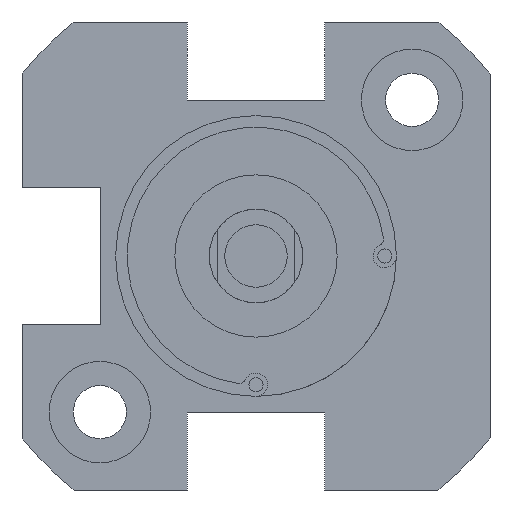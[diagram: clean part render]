
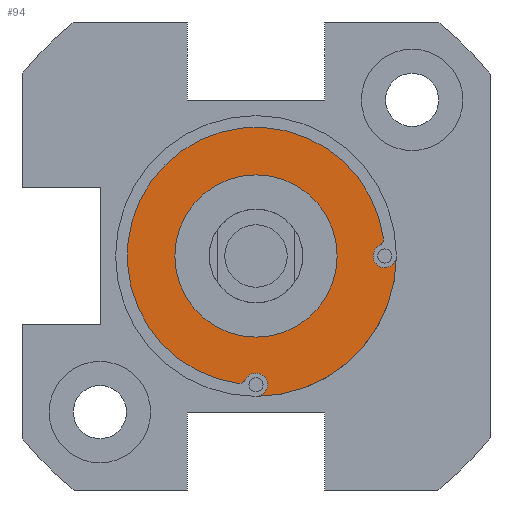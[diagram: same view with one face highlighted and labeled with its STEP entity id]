
A CAD part, front view. The second image highlights one B-rep face of the part: STEP entity #94.
In plain terms, the highlighted planar face has unit normal (0, -1, 0).
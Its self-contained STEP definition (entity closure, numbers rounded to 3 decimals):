
#94 = ADVANCED_FACE ( 'NONE', ( #2192, #703 ), #1147, .T. ) ;
#104 = EDGE_CURVE ( 'NONE', #392, #1234, #2661, .T. ) ;
#167 = ORIENTED_EDGE ( 'NONE', *, *, #2226, .T. ) ;
#177 = DIRECTION ( 'NONE',  ( 0., 0., 1. ) ) ;
#226 = AXIS2_PLACEMENT_3D ( 'NONE', #2895, #2389, #2912 ) ;
#259 = EDGE_CURVE ( 'NONE', #392, #3048, #585, .T. ) ;
#274 = DIRECTION ( 'NONE',  ( 0., 0., 1. ) ) ;
#314 = VERTEX_POINT ( 'NONE', #540 ) ;
#315 = AXIS2_PLACEMENT_3D ( 'NONE', #2873, #892, #177 ) ;
#392 = VERTEX_POINT ( 'NONE', #1765 ) ;
#404 = CIRCLE ( 'NONE', #3050, 0.5 ) ;
#409 = VERTEX_POINT ( 'NONE', #512 ) ;
#411 = DIRECTION ( 'NONE',  ( 0., 0., 1. ) ) ;
#489 = VERTEX_POINT ( 'NONE', #2087 ) ;
#490 = CARTESIAN_POINT ( 'NONE',  ( 0., -36.5, 0. ) ) ;
#512 = CARTESIAN_POINT ( 'NONE',  ( -0.665, -36.5, -7.902 ) ) ;
#525 = AXIS2_PLACEMENT_3D ( 'NONE', #2043, #550, #2304 ) ;
#540 = CARTESIAN_POINT ( 'NONE',  ( -1.179, -36.5, -8.165 ) ) ;
#547 = CARTESIAN_POINT ( 'NONE',  ( 0., -36.5, 0. ) ) ;
#550 = DIRECTION ( 'NONE',  ( 0., 1., 0. ) ) ;
#585 = CIRCLE ( 'NONE', #1107, 9. ) ;
#615 = CARTESIAN_POINT ( 'NONE',  ( 7.902, -36.5, 0.665 ) ) ;
#699 = DIRECTION ( 'NONE',  ( 0., -1., 0. ) ) ;
#703 = FACE_BOUND ( 'NONE', #2941, .T. ) ;
#720 = EDGE_CURVE ( 'NONE', #314, #489, #3157, .T. ) ;
#723 = ORIENTED_EDGE ( 'NONE', *, *, #259, .F. ) ;
#778 = EDGE_CURVE ( 'NONE', #1019, #409, #2063, .T. ) ;
#795 = ORIENTED_EDGE ( 'NONE', *, *, #2995, .T. ) ;
#871 = ORIENTED_EDGE ( 'NONE', *, *, #720, .F. ) ;
#892 = DIRECTION ( 'NONE',  ( 0., 1., 0. ) ) ;
#907 = CARTESIAN_POINT ( 'NONE',  ( 8.25, -36.5, 0. ) ) ;
#926 = AXIS2_PLACEMENT_3D ( 'NONE', #1026, #1535, #2773 ) ;
#931 = AXIS2_PLACEMENT_3D ( 'NONE', #2997, #2759, #1257 ) ;
#951 = CARTESIAN_POINT ( 'NONE',  ( 7.67, -36.5, 1.108 ) ) ;
#953 = CARTESIAN_POINT ( 'NONE',  ( 0., -36.5, -9. ) ) ;
#988 = ORIENTED_EDGE ( 'NONE', *, *, #1918, .T. ) ;
#1019 = VERTEX_POINT ( 'NONE', #2160 ) ;
#1026 = CARTESIAN_POINT ( 'NONE',  ( -1.108, -36.5, -7.67 ) ) ;
#1106 = ORIENTED_EDGE ( 'NONE', *, *, #1768, .T. ) ;
#1107 = AXIS2_PLACEMENT_3D ( 'NONE', #490, #2203, #2458 ) ;
#1133 = AXIS2_PLACEMENT_3D ( 'NONE', #907, #1660, #411 ) ;
#1147 = PLANE ( 'NONE',  #3068 ) ;
#1159 = DIRECTION ( 'NONE',  ( 0., -1., 0. ) ) ;
#1169 = DIRECTION ( 'NONE',  ( 0., 0., 1. ) ) ;
#1197 = DIRECTION ( 'NONE',  ( 0., 0., -1. ) ) ;
#1234 = VERTEX_POINT ( 'NONE', #1980 ) ;
#1257 = DIRECTION ( 'NONE',  ( 0., 0., -1. ) ) ;
#1325 = CIRCLE ( 'NONE', #1133, 0.75 ) ;
#1535 = DIRECTION ( 'NONE',  ( 0., -1., 0. ) ) ;
#1572 = AXIS2_PLACEMENT_3D ( 'NONE', #547, #2288, #274 ) ;
#1660 = DIRECTION ( 'NONE',  ( 0., 1., 0. ) ) ;
#1664 = CARTESIAN_POINT ( 'NONE',  ( 0., -36.5, 0. ) ) ;
#1765 = CARTESIAN_POINT ( 'NONE',  ( 9., -36.5, 0. ) ) ;
#1768 = EDGE_CURVE ( 'NONE', #409, #3048, #2278, .T. ) ;
#1788 = CIRCLE ( 'NONE', #525, 5.2 ) ;
#1849 = DIRECTION ( 'NONE',  ( 0., 0., 1. ) ) ;
#1918 = EDGE_CURVE ( 'NONE', #3214, #489, #404, .T. ) ;
#1980 = CARTESIAN_POINT ( 'NONE',  ( 8.25, -36.5, -0.75 ) ) ;
#2017 = EDGE_CURVE ( 'NONE', #314, #1019, #2398, .T. ) ;
#2043 = CARTESIAN_POINT ( 'NONE',  ( 0., -36.5, 0. ) ) ;
#2063 = CIRCLE ( 'NONE', #926, 0.5 ) ;
#2087 = CARTESIAN_POINT ( 'NONE',  ( 8.165, -36.5, 1.179 ) ) ;
#2103 = DIRECTION ( 'NONE',  ( 0., 1., 0. ) ) ;
#2160 = CARTESIAN_POINT ( 'NONE',  ( -1.108, -36.5, -8.17 ) ) ;
#2192 = FACE_OUTER_BOUND ( 'NONE', #2342, .T. ) ;
#2203 = DIRECTION ( 'NONE',  ( 0., 1., 0. ) ) ;
#2226 = EDGE_CURVE ( 'NONE', #2975, #2930, #1788, .T. ) ;
#2278 = CIRCLE ( 'NONE', #315, 0.75 ) ;
#2288 = DIRECTION ( 'NONE',  ( 0., 1., 0. ) ) ;
#2304 = DIRECTION ( 'NONE',  ( 0., 0., 1. ) ) ;
#2306 = ORIENTED_EDGE ( 'NONE', *, *, #3086, .T. ) ;
#2307 = ORIENTED_EDGE ( 'NONE', *, *, #104, .T. ) ;
#2324 = ORIENTED_EDGE ( 'NONE', *, *, #778, .T. ) ;
#2342 = EDGE_LOOP ( 'NONE', ( #2307, #795, #988, #871, #2985, #2324, #1106, #723 ) ) ;
#2360 = CARTESIAN_POINT ( 'NONE',  ( 0., -36.5, -5.2 ) ) ;
#2389 = DIRECTION ( 'NONE',  ( 0., 1., 0. ) ) ;
#2398 = CIRCLE ( 'NONE', #931, 0.5 ) ;
#2458 = DIRECTION ( 'NONE',  ( 0., 0., 1. ) ) ;
#2567 = CIRCLE ( 'NONE', #3200, 5.2 ) ;
#2661 = CIRCLE ( 'NONE', #226, 0.75 ) ;
#2759 = DIRECTION ( 'NONE',  ( 0., -1., 0. ) ) ;
#2773 = DIRECTION ( 'NONE',  ( 0., 0., -1. ) ) ;
#2812 = CARTESIAN_POINT ( 'NONE',  ( 0., -36.5, 0. ) ) ;
#2873 = CARTESIAN_POINT ( 'NONE',  ( 0., -36.5, -8.25 ) ) ;
#2895 = CARTESIAN_POINT ( 'NONE',  ( 8.25, -36.5, 0. ) ) ;
#2912 = DIRECTION ( 'NONE',  ( 0., 0., 1. ) ) ;
#2930 = VERTEX_POINT ( 'NONE', #2360 ) ;
#2941 = EDGE_LOOP ( 'NONE', ( #2306, #167 ) ) ;
#2975 = VERTEX_POINT ( 'NONE', #3179 ) ;
#2985 = ORIENTED_EDGE ( 'NONE', *, *, #2017, .T. ) ;
#2995 = EDGE_CURVE ( 'NONE', #1234, #3214, #1325, .T. ) ;
#2997 = CARTESIAN_POINT ( 'NONE',  ( -1.108, -36.5, -7.67 ) ) ;
#3048 = VERTEX_POINT ( 'NONE', #953 ) ;
#3050 = AXIS2_PLACEMENT_3D ( 'NONE', #951, #699, #1197 ) ;
#3068 = AXIS2_PLACEMENT_3D ( 'NONE', #1664, #1159, #1169 ) ;
#3086 = EDGE_CURVE ( 'NONE', #2930, #2975, #2567, .T. ) ;
#3157 = CIRCLE ( 'NONE', #1572, 8.25 ) ;
#3179 = CARTESIAN_POINT ( 'NONE',  ( 0., -36.5, 5.2 ) ) ;
#3200 = AXIS2_PLACEMENT_3D ( 'NONE', #2812, #2103, #1849 ) ;
#3214 = VERTEX_POINT ( 'NONE', #615 ) ;
